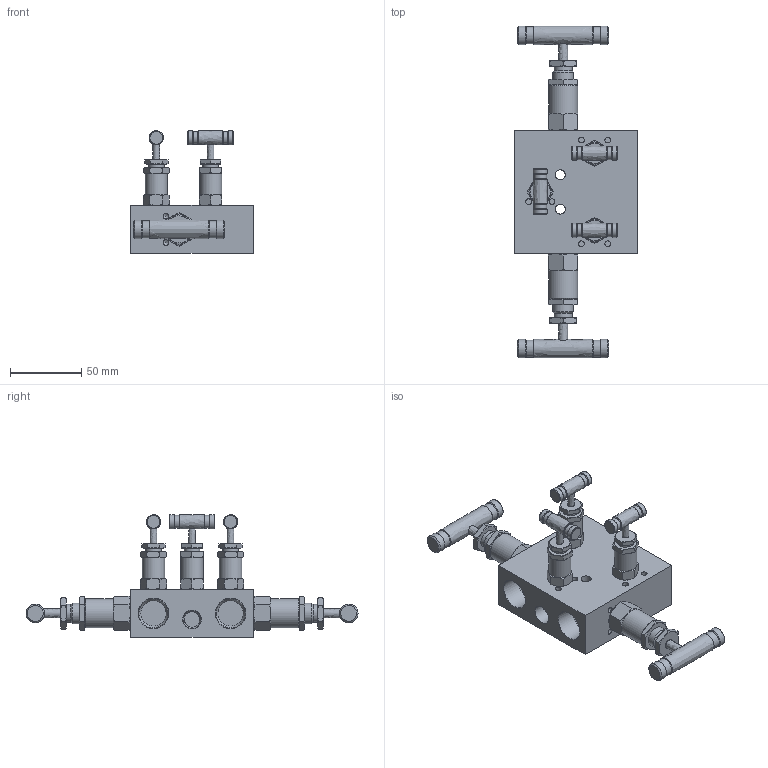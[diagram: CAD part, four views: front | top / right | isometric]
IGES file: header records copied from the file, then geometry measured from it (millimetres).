
Global section: file name: SM5V-F-8N-S316; native system: Autodesk Inventor 2016; preprocessor: unknown; author: 이승민,,11,0; organization: 20161214.091402; date: 20161216.192504; units: millimetre
Bounding box: 86 x 232.52 x 85.85 mm (x, y, z)
Volume: 287276.5 mm3; surface area: 63947.2 mm2
Topology: 6 solids, 6 shells, 495 faces, 1230 edges, 814 vertices
Faces by surface type: bspline 495
